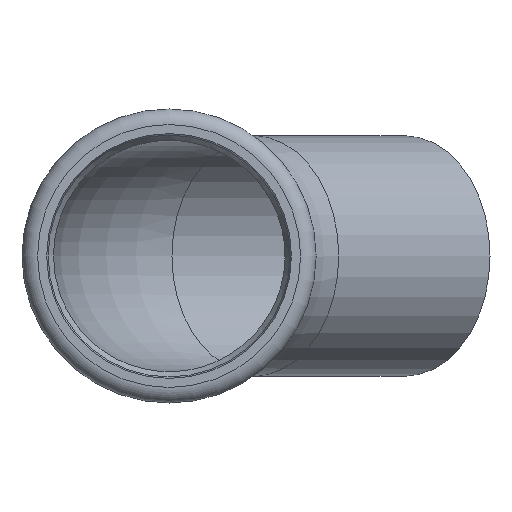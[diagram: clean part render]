
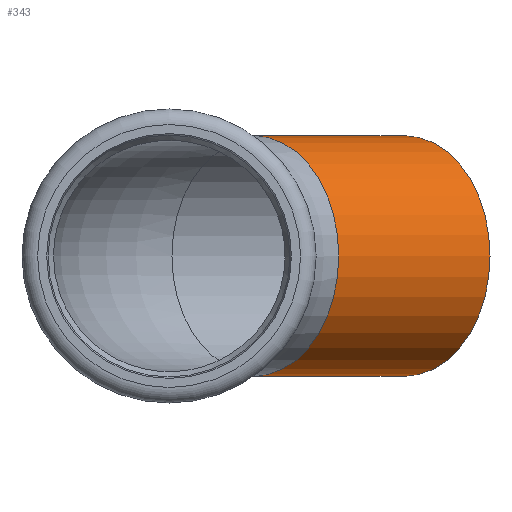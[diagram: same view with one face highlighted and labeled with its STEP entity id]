
A CAD part, left-side view. The second image highlights one B-rep face of the part: STEP entity #343.
In plain terms, the highlighted cylindrical face has radius 54 mm (diameter 108 mm), a full revolution.
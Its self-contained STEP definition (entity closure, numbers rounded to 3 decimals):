
#316=CARTESIAN_POINT('',(91.924,-38.076,0.0));
#317=DIRECTION('',(0.707,-0.707,0.0));
#318=DIRECTION('',(-0.707,-0.707,0.0));
#319=AXIS2_PLACEMENT_3D('',#316,#317,#318);
#320=CYLINDRICAL_SURFACE('',#319,54.);
#321=CARTESIAN_POINT('',(198.098,-67.882,0.));
#322=VERTEX_POINT('',#321);
#323=CARTESIAN_POINT('',(159.914,-106.066,0.0));
#324=DIRECTION('',(-0.707,0.707,0.0));
#325=DIRECTION('',(-0.707,-0.707,0.0));
#326=AXIS2_PLACEMENT_3D('',#323,#324,#325);
#327=CIRCLE('',#326,54.);
#328=EDGE_CURVE('',#322,#322,#327,.T.);
#329=ORIENTED_EDGE('',*,*,#328,.T.);
#330=EDGE_LOOP('',(#329));
#331=FACE_OUTER_BOUND('',#330,.T.);
#332=CARTESIAN_POINT('',(130.108,0.108,0.));
#333=VERTEX_POINT('',#332);
#334=CARTESIAN_POINT('',(91.924,-38.076,0.0));
#335=DIRECTION('',(-0.707,0.707,0.0));
#336=DIRECTION('',(-0.707,-0.707,0.0));
#337=AXIS2_PLACEMENT_3D('',#334,#335,#336);
#338=CIRCLE('',#337,54.);
#339=EDGE_CURVE('',#333,#333,#338,.T.);
#340=ORIENTED_EDGE('',*,*,#339,.F.);
#341=EDGE_LOOP('',(#340));
#342=FACE_BOUND('',#341,.T.);
#343=ADVANCED_FACE('',(#331,#342),#320,.T.);
